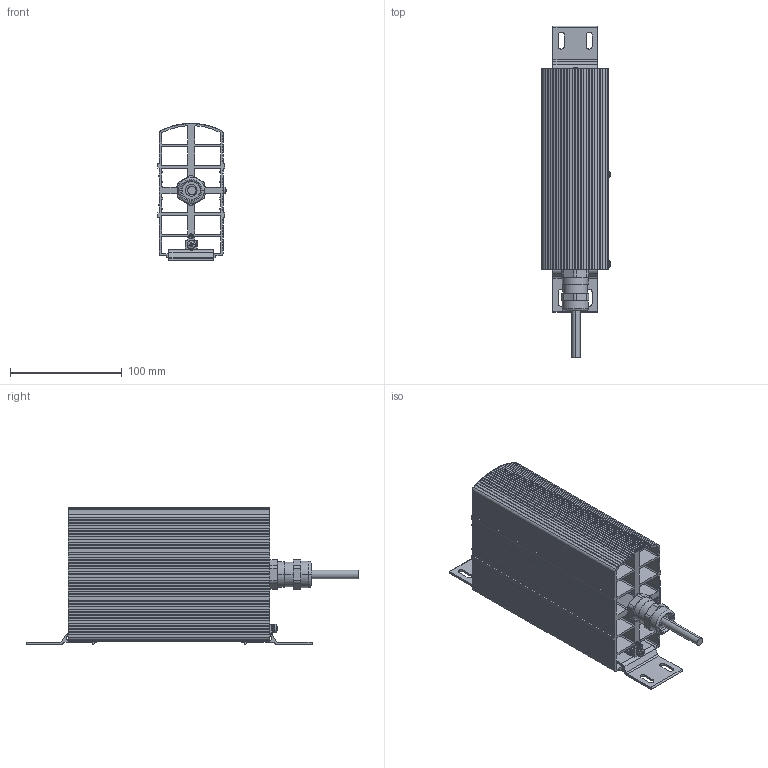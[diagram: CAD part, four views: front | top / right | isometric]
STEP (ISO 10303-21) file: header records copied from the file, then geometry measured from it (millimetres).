
FILE_DESCRIPTION (( 'STEP AP214' ), '1' );
FILE_NAME ('02033.x-1x_Ex-Heizgeraet.STEP', '2017-08-08T13:39:57', ( '' ), ( '' ), 'SwSTEP 2.0', 'SolidWorks 2017', '' );
FILE_SCHEMA (( 'AUTOMOTIVE_DESIGN' ));
Length unit declared in the file: millimetre
Products named in the file (1): 02033.x-1x_Ex-Heizgeraet
Bounding box: 61.42 x 297 x 122.8 mm (x, y, z)
Surface area: 259704.2 mm2 (no closed solid volume)
Topology: 0 solids, 13 shells, 687 faces, 2618 edges, 1808 vertices
Faces by surface type: plane 488, cylinder 160, cone 26, torus 6, sphere 6, bspline 1
Entity records: 35147 total; most frequent: CARTESIAN_POINT 5821, ORIENTED_EDGE 4391, DIRECTION 4291, EDGE_CURVE 2618, LINE 2081, VECTOR 2081, VERTEX_POINT 1808, AXIS2_PLACEMENT_3D 1105
